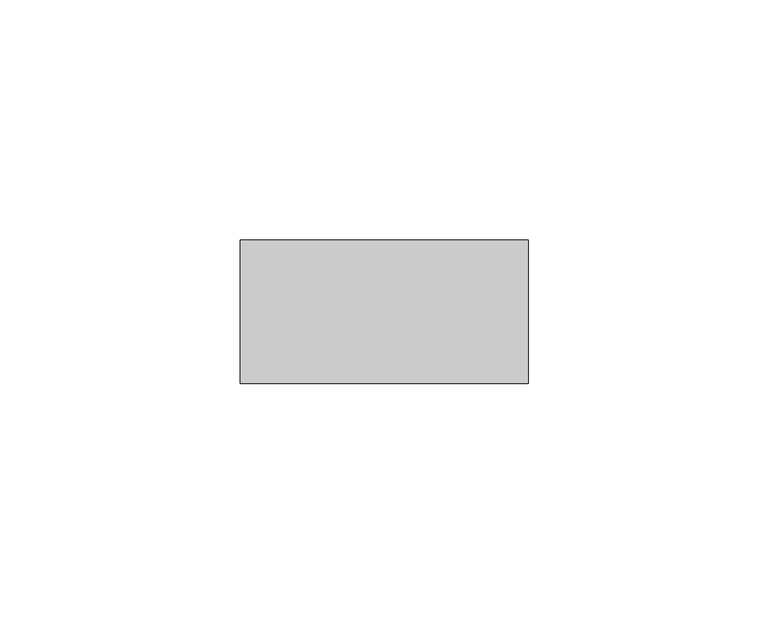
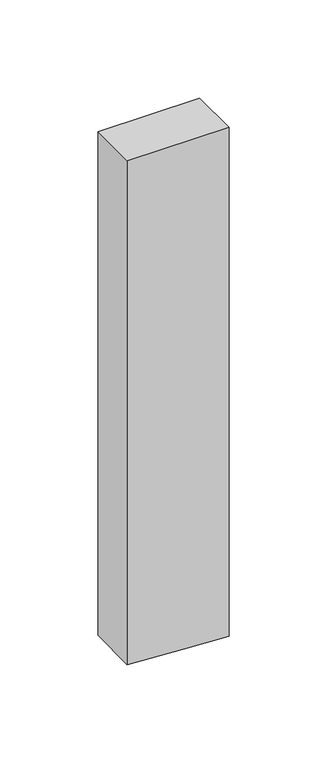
"""IFC4 building model written with IfcOpenShell, lengths in millimetres: member geometry, Прямоугольный импост : Квадрат 30 мм."""

from ifc_helpers import new_model, si_unit, frame, origin, place, context, project, spatial, polyline, outline, extrude, source, transform, mapped, element, save


def member_3ef459ed(model_context):
    return source(origin(), model_context, "Body", "SweptSolid", [
        extrude(outline(polyline([(0.0, 30.0), (0.0, -30.0), (-313.7027652, -30.0), (-315.5089102, 2.753035), (-317.0114265, 30.0), (0.0, 30.0)])), frame((0.0, -15.0, 0.0), z_axis=(0.0, 1.0, 0.0), x_axis=(0.0, 0.0, 1.0)), (0.0, 0.0, 1.0), 30.0),
    ])


if __name__ == "__main__":
    model = new_model("IFC4")
    model_context = context("Model", 3, world=origin())
    ifc_project = project(units=[si_unit("LENGTHUNIT", "METRE", prefix="MILLI")], contexts=[model_context])
    site = spatial("IfcSite", under=ifc_project)
    building = spatial("IfcBuilding", under=site)
    placement = place(None, origin())
    member_shape = member_3ef459ed(model_context)
    element("IfcMember", 1, ObjectType="Прямоугольный импост : Квадрат 30 мм", at=placement, inside=building, context=model_context, shape_type="MappedRepresentation", body=[
        mapped(member_shape, transform((0.0, 0.0, 0.0), x_axis=(1.0, 0.0, 0.0), y_axis=(0.0, 1.0, 0.0), z_axis=(0.0, 0.0, 1.0))),
    ])
    save(model, "model.ifc")
